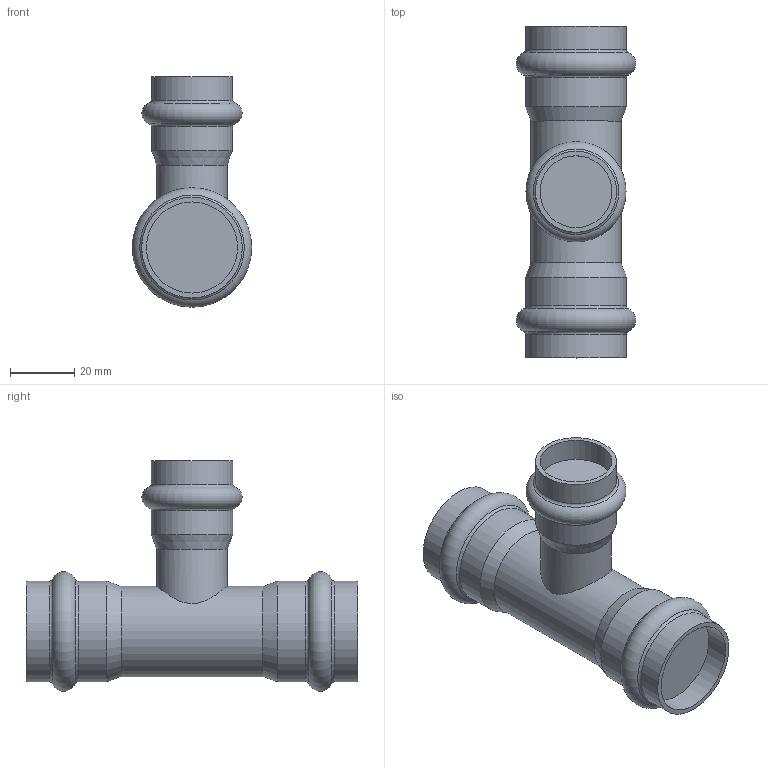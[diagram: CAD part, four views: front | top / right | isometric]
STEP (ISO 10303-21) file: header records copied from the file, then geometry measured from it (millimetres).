
FILE_DESCRIPTION(('STEP AP203'), '1');
FILE_NAME('VTi.931.I.282228', '', ('UNSPECIFIED'), ('UNSPECIFIED'), 'C3D Converter', 'C3D Toolkit', '');
FILE_SCHEMA(('CONFIG_CONTROL_DESIGN'));
Length unit declared in the file: millimetre
Bounding box: 37.1 x 103 x 71.55 mm (x, y, z)
Volume: 82732 mm3; surface area: 17258.6 mm2
Topology: 1 solids, 1 shells, 29 faces, 53 edges, 29 vertices
Faces by surface type: cylinder 11, torus 9, plane 6, cone 3
Full cylindrical faces by diameter (mm): 22 x1, 22.3 x1, 25.2 x2, 28 x1, 28.3 x2, 31.26 x4
Entity records: 870 total; most frequent: CARTESIAN_POINT 340, DIRECTION 114, ORIENTED_EDGE 58, AXIS2_PLACEMENT_3D 57, EDGE_LOOP 56, FACE_OUTER_BOUND 45, ADVANCED_FACE 29, EDGE_CURVE 29
